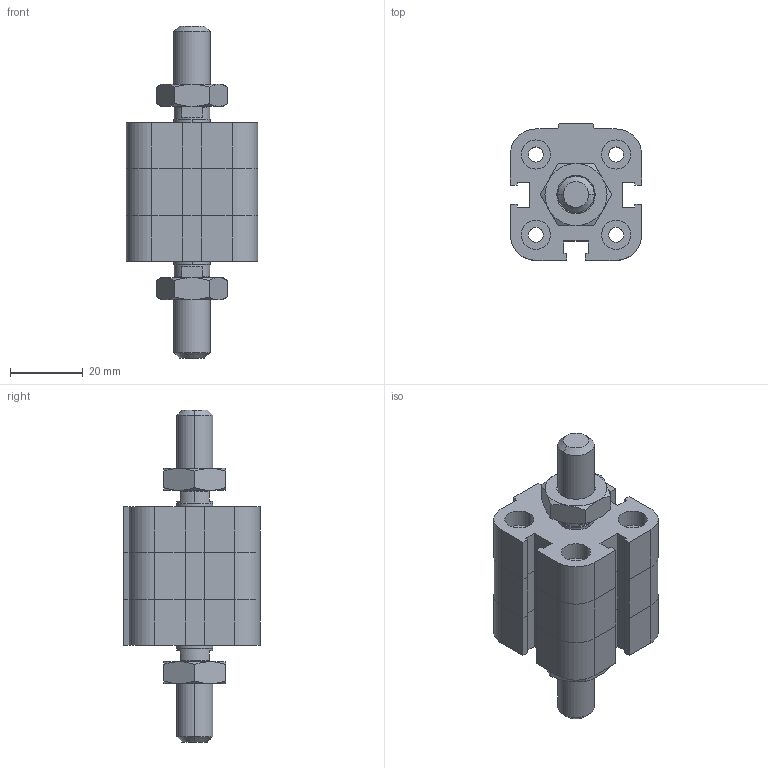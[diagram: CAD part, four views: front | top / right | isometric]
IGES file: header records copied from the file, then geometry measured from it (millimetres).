
Global section: file name: No Iges File Name specified; native system: Autodesk Inventor 2009; preprocessor: AutoDesk Inventor Iges Exporter R2009; author: maffial1; date: 20090420.200837; units: millimetre
Bounding box: 36 x 37.5 x 91 mm (x, y, z)
Volume: 47001.3 mm3; surface area: 17224.5 mm2
Topology: 4 solids, 4 shells, 244 faces, 550 edges, 326 vertices
Faces by surface type: plane 125, bspline 47, cone 38, cylinder 22, revolution 12
